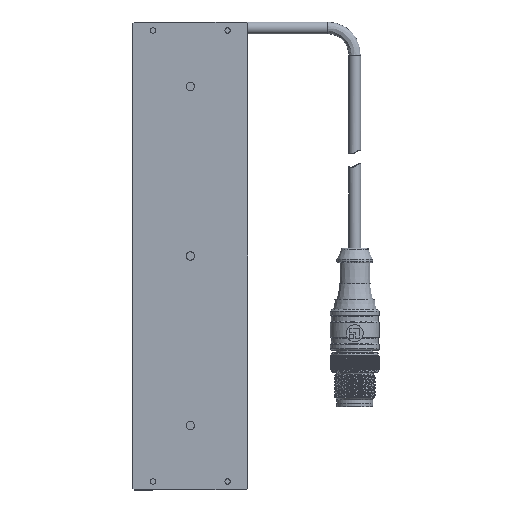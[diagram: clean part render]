
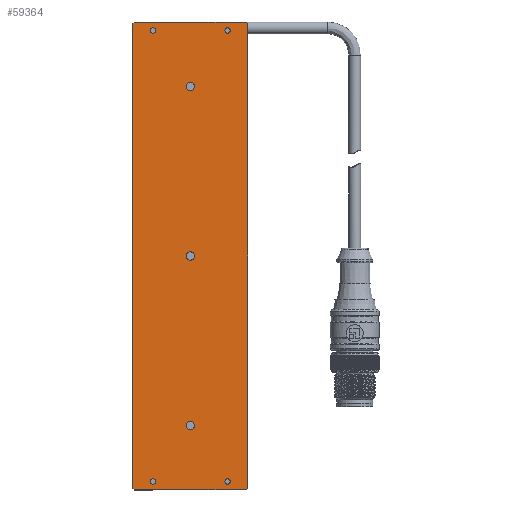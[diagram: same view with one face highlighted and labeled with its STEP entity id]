
A CAD part, front view. The second image highlights one B-rep face of the part: STEP entity #59364.
In plain terms, the highlighted planar face has unit normal (0, -1, 0).
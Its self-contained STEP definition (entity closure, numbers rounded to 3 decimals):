
#12198 = EDGE_LOOP ( 'NONE', ( #14133 ) ) ;
#12200 = EDGE_LOOP ( 'NONE', ( #14093 ) ) ;
#12210 = EDGE_LOOP ( 'NONE', ( #14091 ) ) ;
#12243 = EDGE_LOOP ( 'NONE', ( #14130 ) ) ;
#12245 = EDGE_LOOP ( 'NONE', ( #14104 ) ) ;
#12266 = EDGE_LOOP ( 'NONE', ( #14056 ) ) ;
#12268 = EDGE_LOOP ( 'NONE', ( #14090 ) ) ;
#12335 = EDGE_LOOP ( 'NONE', ( #14042, #14100, #14126, #14035, #14098, #14058, #14083, #14166 ) ) ;
#12486 = EDGE_CURVE ( 'NONE', #63373, #63373, #105598, .T. ) ;
#12497 = EDGE_CURVE ( 'NONE', #63299, #63299, #105493, .T. ) ;
#12543 = EDGE_CURVE ( 'NONE', #63300, #63300, #105567, .T. ) ;
#12752 = EDGE_CURVE ( 'NONE', #63272, #63272, #105889, .T. ) ;
#12794 = EDGE_CURVE ( 'NONE', #63392, #63392, #105771, .T. ) ;
#12820 = EDGE_CURVE ( 'NONE', #63395, #63395, #106026, .T. ) ;
#12850 = EDGE_CURVE ( 'NONE', #42784, #42775, #126734, .T. ) ;
#12883 = EDGE_CURVE ( 'NONE', #42775, #42821, #126766, .T. ) ;
#14035 = ORIENTED_EDGE ( 'NONE', *, *, #18281, .T. ) ;
#14042 = ORIENTED_EDGE ( 'NONE', *, *, #18387, .F. ) ;
#14056 = ORIENTED_EDGE ( 'NONE', *, *, #18528, .F. ) ;
#14058 = ORIENTED_EDGE ( 'NONE', *, *, #18493, .T. ) ;
#14083 = ORIENTED_EDGE ( 'NONE', *, *, #18395, .F. ) ;
#14090 = ORIENTED_EDGE ( 'NONE', *, *, #12752, .F. ) ;
#14091 = ORIENTED_EDGE ( 'NONE', *, *, #12820, .T. ) ;
#14093 = ORIENTED_EDGE ( 'NONE', *, *, #12486, .F. ) ;
#14098 = ORIENTED_EDGE ( 'NONE', *, *, #18558, .T. ) ;
#14100 = ORIENTED_EDGE ( 'NONE', *, *, #12850, .T. ) ;
#14104 = ORIENTED_EDGE ( 'NONE', *, *, #12543, .T. ) ;
#14126 = ORIENTED_EDGE ( 'NONE', *, *, #12883, .T. ) ;
#14130 = ORIENTED_EDGE ( 'NONE', *, *, #12497, .T. ) ;
#14133 = ORIENTED_EDGE ( 'NONE', *, *, #12794, .T. ) ;
#14166 = ORIENTED_EDGE ( 'NONE', *, *, #18352, .T. ) ;
#18281 = EDGE_CURVE ( 'NONE', #42821, #42796, #116137, .T. ) ;
#18352 = EDGE_CURVE ( 'NONE', #42816, #42787, #114455, .T. ) ;
#18387 = EDGE_CURVE ( 'NONE', #42784, #42787, #114561, .T. ) ;
#18395 = EDGE_CURVE ( 'NONE', #42816, #42819, #114594, .T. ) ;
#18493 = EDGE_CURVE ( 'NONE', #42789, #42819, #115009, .T. ) ;
#18528 = EDGE_CURVE ( 'NONE', #63530, #63530, #78084, .T. ) ;
#18558 = EDGE_CURVE ( 'NONE', #42796, #42789, #115169, .T. ) ;
#35459 = FACE_BOUND ( 'NONE', #12245, .T. ) ;
#35461 = FACE_BOUND ( 'NONE', #12200, .T. ) ;
#35464 = FACE_BOUND ( 'NONE', #12198, .T. ) ;
#35466 = FACE_BOUND ( 'NONE', #12243, .T. ) ;
#35467 = FACE_BOUND ( 'NONE', #12210, .T. ) ;
#35472 = FACE_BOUND ( 'NONE', #12266, .T. ) ;
#35473 = PLANE ( 'NONE',  #123301 ) ;
#35477 = FACE_BOUND ( 'NONE', #12268, .T. ) ;
#35482 = CARTESIAN_POINT ( 'NONE',  ( -17., 0., 138. ) ) ;
#35483 = FACE_OUTER_BOUND ( 'NONE', #12335, .T. ) ;
#35504 = DIRECTION ( 'NONE',  ( 0., 1., 0. ) ) ;
#35514 = DIRECTION ( 'NONE',  ( -1., 0., 0. ) ) ;
#42775 = VERTEX_POINT ( 'NONE', #92876 ) ;
#42784 = VERTEX_POINT ( 'NONE', #93151 ) ;
#42787 = VERTEX_POINT ( 'NONE', #93119 ) ;
#42789 = VERTEX_POINT ( 'NONE', #93122 ) ;
#42796 = VERTEX_POINT ( 'NONE', #93221 ) ;
#42816 = VERTEX_POINT ( 'NONE', #93244 ) ;
#42819 = VERTEX_POINT ( 'NONE', #93368 ) ;
#42821 = VERTEX_POINT ( 'NONE', #93395 ) ;
#59364 = ADVANCED_FACE ( 'NONE', ( #35472, #35461, #35477, #35467, #35464, #35459, #35466, #35483 ), #35473, .F. ) ;
#63272 = VERTEX_POINT ( 'NONE', #63277 ) ;
#63277 = CARTESIAN_POINT ( 'NONE',  ( 0., 0., 17.75 ) ) ;
#63284 = CARTESIAN_POINT ( 'NONE',  ( -11.8, 0., 135.5 ) ) ;
#63299 = VERTEX_POINT ( 'NONE', #63284 ) ;
#63300 = VERTEX_POINT ( 'NONE', #63302 ) ;
#63302 = CARTESIAN_POINT ( 'NONE',  ( 10.2, 0., 135.5 ) ) ;
#63332 = CARTESIAN_POINT ( 'NONE',  ( 0., 0., 67.75 ) ) ;
#63373 = VERTEX_POINT ( 'NONE', #63332 ) ;
#63380 = CARTESIAN_POINT ( 'NONE',  ( 10.2, 0., 2.5 ) ) ;
#63392 = VERTEX_POINT ( 'NONE', #63380 ) ;
#63395 = VERTEX_POINT ( 'NONE', #63436 ) ;
#63436 = CARTESIAN_POINT ( 'NONE',  ( -11.8, 0., 2.5 ) ) ;
#63530 = VERTEX_POINT ( 'NONE', #63596 ) ;
#63596 = CARTESIAN_POINT ( 'NONE',  ( 0., 0., 117.75 ) ) ;
#78051 = VECTOR ( 'NONE', #114463, 1000. ) ;
#78065 = VECTOR ( 'NONE', #116138, 1000. ) ;
#78084 = CIRCLE ( 'NONE', #78111, 1.25 ) ;
#78090 = VECTOR ( 'NONE', #115012, 1000. ) ;
#78093 = VECTOR ( 'NONE', #114659, 1000. ) ;
#78096 = VECTOR ( 'NONE', #114565, 1000. ) ;
#78111 = AXIS2_PLACEMENT_3D ( 'NONE', #115078, #115086, #115088 ) ;
#78142 = VECTOR ( 'NONE', #115174, 1000. ) ;
#92876 = CARTESIAN_POINT ( 'NONE',  ( -17., 0., 137.5 ) ) ;
#93119 = CARTESIAN_POINT ( 'NONE',  ( 16.5, 0., 138. ) ) ;
#93122 = CARTESIAN_POINT ( 'NONE',  ( 16.5, 0., 0. ) ) ;
#93151 = CARTESIAN_POINT ( 'NONE',  ( -16.5, 0., 138. ) ) ;
#93221 = CARTESIAN_POINT ( 'NONE',  ( -16.5, 0., 0. ) ) ;
#93244 = CARTESIAN_POINT ( 'NONE',  ( 17., 0., 137.5 ) ) ;
#93368 = CARTESIAN_POINT ( 'NONE',  ( 17., 0., 0.5 ) ) ;
#93395 = CARTESIAN_POINT ( 'NONE',  ( -17., 0., 0.5 ) ) ;
#105493 = CIRCLE ( 'NONE', #105654, 0.8 ) ;
#105567 = CIRCLE ( 'NONE', #105628, 0.8 ) ;
#105598 = CIRCLE ( 'NONE', #105764, 1.25 ) ;
#105628 = AXIS2_PLACEMENT_3D ( 'NONE', #126489, #126439, #126464 ) ;
#105654 = AXIS2_PLACEMENT_3D ( 'NONE', #126414, #126477, #126425 ) ;
#105764 = AXIS2_PLACEMENT_3D ( 'NONE', #126421, #126470, #126497 ) ;
#105771 = CIRCLE ( 'NONE', #105933, 0.8 ) ;
#105836 = AXIS2_PLACEMENT_3D ( 'NONE', #126658, #126652, #126667 ) ;
#105889 = CIRCLE ( 'NONE', #105941, 1.25 ) ;
#105933 = AXIS2_PLACEMENT_3D ( 'NONE', #126621, #126616, #126611 ) ;
#105941 = AXIS2_PLACEMENT_3D ( 'NONE', #126577, #126578, #126595 ) ;
#105981 = VECTOR ( 'NONE', #126699, 1000. ) ;
#106026 = CIRCLE ( 'NONE', #105836, 0.8 ) ;
#106035 = VECTOR ( 'NONE', #126739, 1000. ) ;
#114455 = LINE ( 'NONE', #114520, #78051 ) ;
#114463 = DIRECTION ( 'NONE',  ( -0.707, 0., 0.707 ) ) ;
#114520 = CARTESIAN_POINT ( 'NONE',  ( 16.5, 0., 138. ) ) ;
#114561 = LINE ( 'NONE', #114563, #78096 ) ;
#114563 = CARTESIAN_POINT ( 'NONE',  ( -17., 0., 138. ) ) ;
#114565 = DIRECTION ( 'NONE',  ( 1., 0., 0. ) ) ;
#114594 = LINE ( 'NONE', #114709, #78093 ) ;
#114659 = DIRECTION ( 'NONE',  ( 0., 0., -1. ) ) ;
#114709 = CARTESIAN_POINT ( 'NONE',  ( 17., 0., 138. ) ) ;
#114986 = CARTESIAN_POINT ( 'NONE',  ( 17., 0., 0.5 ) ) ;
#115009 = LINE ( 'NONE', #114986, #78090 ) ;
#115012 = DIRECTION ( 'NONE',  ( 0.707, 0., 0.707 ) ) ;
#115078 = CARTESIAN_POINT ( 'NONE',  ( 0., 0., 119. ) ) ;
#115086 = DIRECTION ( 'NONE',  ( 0., -1., 0. ) ) ;
#115088 = DIRECTION ( 'NONE',  ( 0., 0., -1. ) ) ;
#115169 = LINE ( 'NONE', #115172, #78142 ) ;
#115172 = CARTESIAN_POINT ( 'NONE',  ( -17., 0., 0. ) ) ;
#115174 = DIRECTION ( 'NONE',  ( 1., 0., 0. ) ) ;
#116137 = LINE ( 'NONE', #116145, #78065 ) ;
#116138 = DIRECTION ( 'NONE',  ( 0.707, 0., -0.707 ) ) ;
#116145 = CARTESIAN_POINT ( 'NONE',  ( -17., 0., 0.5 ) ) ;
#123301 = AXIS2_PLACEMENT_3D ( 'NONE', #35482, #35504, #35514 ) ;
#126414 = CARTESIAN_POINT ( 'NONE',  ( -11., 0., 135.5 ) ) ;
#126421 = CARTESIAN_POINT ( 'NONE',  ( 0., 0., 69. ) ) ;
#126425 = DIRECTION ( 'NONE',  ( -1., 0., 0. ) ) ;
#126439 = DIRECTION ( 'NONE',  ( 0., 1., 0. ) ) ;
#126464 = DIRECTION ( 'NONE',  ( -1., 0., 0. ) ) ;
#126470 = DIRECTION ( 'NONE',  ( 0., -1., 0. ) ) ;
#126477 = DIRECTION ( 'NONE',  ( 0., 1., 0. ) ) ;
#126489 = CARTESIAN_POINT ( 'NONE',  ( 11., 0., 135.5 ) ) ;
#126497 = DIRECTION ( 'NONE',  ( 0., 0., -1. ) ) ;
#126577 = CARTESIAN_POINT ( 'NONE',  ( 0., 0., 19. ) ) ;
#126578 = DIRECTION ( 'NONE',  ( 0., -1., 0. ) ) ;
#126595 = DIRECTION ( 'NONE',  ( 0., 0., -1. ) ) ;
#126611 = DIRECTION ( 'NONE',  ( -1., 0., 0. ) ) ;
#126616 = DIRECTION ( 'NONE',  ( 0., 1., 0. ) ) ;
#126621 = CARTESIAN_POINT ( 'NONE',  ( 11., 0., 2.5 ) ) ;
#126652 = DIRECTION ( 'NONE',  ( 0., 1., 0. ) ) ;
#126658 = CARTESIAN_POINT ( 'NONE',  ( -11., 0., 2.5 ) ) ;
#126667 = DIRECTION ( 'NONE',  ( -1., 0., 0. ) ) ;
#126699 = DIRECTION ( 'NONE',  ( -0.707, 0., -0.707 ) ) ;
#126700 = CARTESIAN_POINT ( 'NONE',  ( -16.5, 0., 138. ) ) ;
#126734 = LINE ( 'NONE', #126700, #105981 ) ;
#126739 = DIRECTION ( 'NONE',  ( 0., 0., -1. ) ) ;
#126766 = LINE ( 'NONE', #126770, #106035 ) ;
#126770 = CARTESIAN_POINT ( 'NONE',  ( -17., 0., 138. ) ) ;
